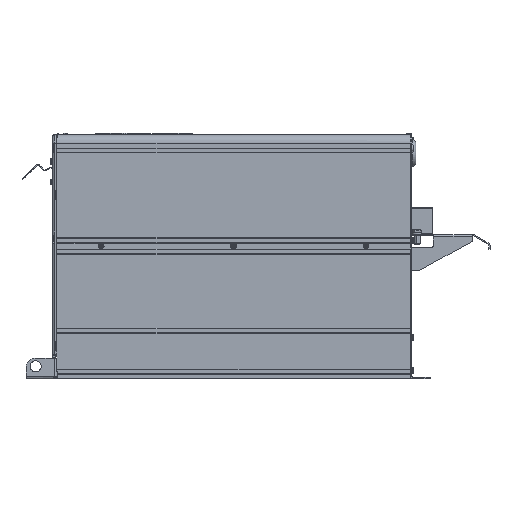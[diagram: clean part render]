
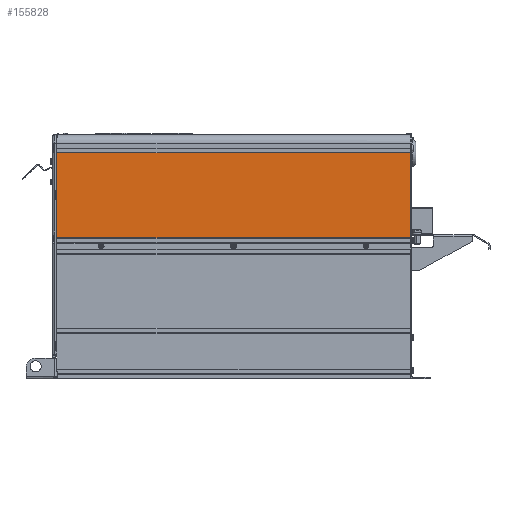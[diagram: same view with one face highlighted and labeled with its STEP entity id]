
A CAD part, left-side view. The second image highlights one B-rep face of the part: STEP entity #155828.
In plain terms, the highlighted planar face has unit normal (-1, 0, 0).
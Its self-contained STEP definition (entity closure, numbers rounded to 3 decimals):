
#3565=DIRECTION('',(0.,0.,-1.));
#3566=VECTOR('',#3565,12.);
#3567=CARTESIAN_POINT('',(-151.5,236.875,255.5));
#3568=LINE('',#3567,#3566);
#20106=DIRECTION('',(0.,0.,1.));
#20107=VECTOR('',#20106,3.);
#20108=CARTESIAN_POINT('',(-151.5,-243.12,193.5));
#20109=LINE('',#20108,#20107);
#35373=DIRECTION('',(0.,-1.,0.));
#35374=VECTOR('',#35373,479.995);
#35375=CARTESIAN_POINT('',(-151.5,236.875,191.6));
#35376=LINE('',#35375,#35374);
#35377=DIRECTION('',(0.,0.,-1.));
#35378=VECTOR('',#35377,51.9);
#35379=CARTESIAN_POINT('',(-151.5,236.875,243.5));
#35380=LINE('',#35379,#35378);
#35381=DIRECTION('',(0.,0.,-1.));
#35382=VECTOR('',#35381,51.5);
#35383=CARTESIAN_POINT('',(-151.5,236.875,307.));
#35384=LINE('',#35383,#35382);
#35385=DIRECTION('',(0.,1.,0.));
#35386=VECTOR('',#35385,479.995);
#35387=CARTESIAN_POINT('',(-151.5,-243.12,307.));
#35388=LINE('',#35387,#35386);
#35389=DIRECTION('',(0.,0.,-1.));
#35390=VECTOR('',#35389,110.5);
#35391=CARTESIAN_POINT('',(-151.5,-243.12,307.));
#35392=LINE('',#35391,#35390);
#35393=DIRECTION('',(0.,0.,1.));
#35394=VECTOR('',#35393,1.9);
#35395=CARTESIAN_POINT('',(-151.5,-243.12,191.6));
#35396=LINE('',#35395,#35394);
#104244=CARTESIAN_POINT('',(-151.5,236.875,243.5));
#104245=VERTEX_POINT('',#104244);
#104290=CARTESIAN_POINT('',(-151.5,236.875,255.5));
#104291=VERTEX_POINT('',#104290);
#104973=CARTESIAN_POINT('',(-151.5,-243.12,196.5));
#104975=VERTEX_POINT('',#104973);
#106006=CARTESIAN_POINT('',(-151.5,-243.12,193.5));
#106008=VERTEX_POINT('',#106006);
#108209=CARTESIAN_POINT('',(-151.5,-243.12,307.));
#108210=CARTESIAN_POINT('',(-151.5,236.875,307.));
#108211=VERTEX_POINT('',#108209);
#108212=VERTEX_POINT('',#108210);
#108217=CARTESIAN_POINT('',(-151.5,236.875,191.6));
#108218=CARTESIAN_POINT('',(-151.5,-243.12,191.6));
#108219=VERTEX_POINT('',#108217);
#108220=VERTEX_POINT('',#108218);
#155809=CARTESIAN_POINT('',(-151.5,236.875,320.));
#155810=DIRECTION('',(-1.,0.,0.));
#155811=DIRECTION('',(0.,0.,-1.));
#155812=AXIS2_PLACEMENT_3D('',#155809,#155810,#155811);
#155813=PLANE('',#155812);
#155815=ORIENTED_EDGE('',*,*,#155814,.F.);
#155817=ORIENTED_EDGE('',*,*,#155816,.F.);
#155818=ORIENTED_EDGE('',*,*,#118512,.F.);
#155820=ORIENTED_EDGE('',*,*,#155819,.F.);
#155822=ORIENTED_EDGE('',*,*,#155821,.F.);
#155823=ORIENTED_EDGE('',*,*,#152657,.T.);
#155824=ORIENTED_EDGE('',*,*,#142713,.F.);
#155825=ORIENTED_EDGE('',*,*,#117049,.F.);
#155826=EDGE_LOOP('',(#155815,#155817,#155818,#155820,#155822,#155823,#155824,
#155825));
#155827=FACE_OUTER_BOUND('',#155826,.F.);
#155828=ADVANCED_FACE('',(#155827),#155813,.T.);
#117049=EDGE_CURVE('',#108220,#106008,#35396,.T.);
#118512=EDGE_CURVE('',#104291,#104245,#3568,.T.);
#142713=EDGE_CURVE('',#106008,#104975,#20109,.T.);
#152657=EDGE_CURVE('',#108211,#104975,#35392,.T.);
#155814=EDGE_CURVE('',#108219,#108220,#35376,.T.);
#155816=EDGE_CURVE('',#104245,#108219,#35380,.T.);
#155819=EDGE_CURVE('',#108212,#104291,#35384,.T.);
#155821=EDGE_CURVE('',#108211,#108212,#35388,.T.);
